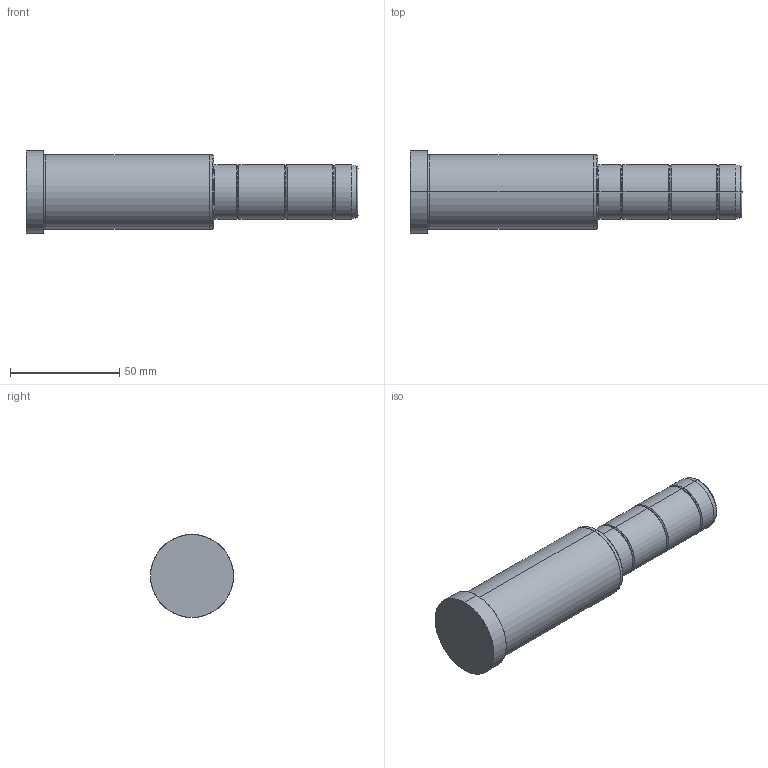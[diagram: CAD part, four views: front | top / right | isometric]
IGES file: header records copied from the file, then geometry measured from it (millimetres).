
Start section: SolidWorks IGES file using analytic representation for surfaces
Global section: file name: C:\Documents and Settings\kalite-mail\Desktop\IGS\D02\25\D02 - 25x86x66.IGS; native system: SolidWorks 2008; preprocessor: SolidWorks 2008; author: kalite-mail; date: 080617.084111; units: millimetre
Bounding box: 152 x 38 x 38 mm (x, y, z)
Surface area: 16744.5 mm2 (no closed solid volume)
Topology: 0 solids, 0 shells, 42 faces, 720 edges, 720 vertices
Faces by surface type: bspline 22, revolution 20
